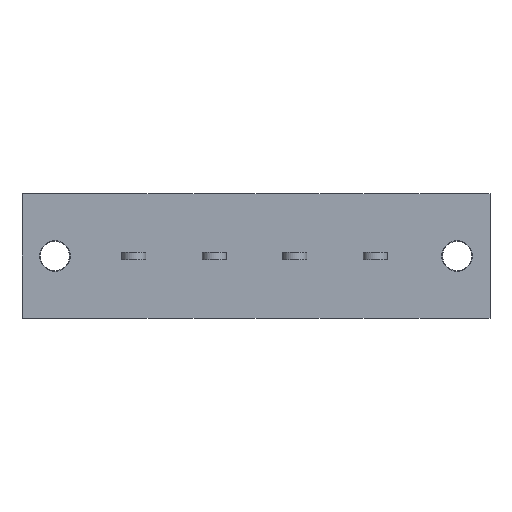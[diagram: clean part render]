
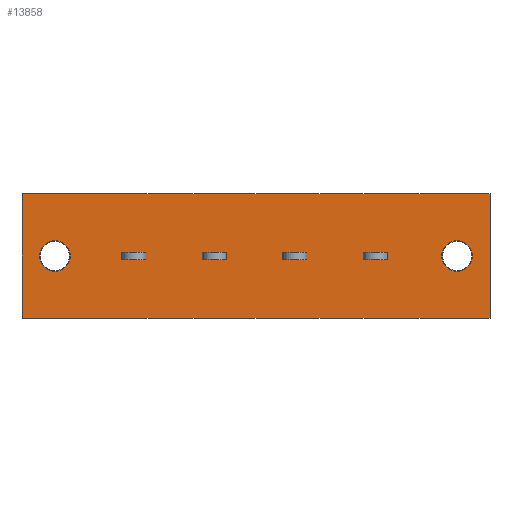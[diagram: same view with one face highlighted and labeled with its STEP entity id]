
A CAD part, front view. The second image highlights one B-rep face of the part: STEP entity #13858.
In plain terms, the highlighted planar face has unit normal (0, -1, 0).
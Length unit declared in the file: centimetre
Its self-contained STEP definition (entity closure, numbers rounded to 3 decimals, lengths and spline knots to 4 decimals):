
#931=VECTOR('',#15007,1.);
#1422=VECTOR('',#15806,1.);
#1591=VECTOR('',#16249,1.);
#1595=VECTOR('',#16254,1.);
#1610=VECTOR('',#16291,1.);
#1618=VECTOR('',#16303,1.);
#1736=VECTOR('',#16617,1.);
#1740=VECTOR('',#16622,1.);
#1755=VECTOR('',#16659,1.);
#1763=VECTOR('',#16671,1.);
#1881=VECTOR('',#16985,1.);
#1885=VECTOR('',#16990,1.);
#1900=VECTOR('',#17027,1.);
#1908=VECTOR('',#17039,1.);
#1975=VECTOR('',#17164,1.);
#1976=VECTOR('',#17165,1.);
#1977=VECTOR('',#17166,1.);
#1978=VECTOR('',#17167,1.);
#1979=VECTOR('',#17168,1.);
#1980=VECTOR('',#17169,1.);
#2448=LINE('',#18828,#931);
#2939=LINE('',#20667,#1422);
#3108=LINE('',#21222,#1591);
#3112=LINE('',#21231,#1595);
#3127=LINE('',#21275,#1610);
#3135=LINE('',#21291,#1618);
#3253=LINE('',#21692,#1736);
#3257=LINE('',#21701,#1740);
#3272=LINE('',#21745,#1755);
#3280=LINE('',#21761,#1763);
#3398=LINE('',#22162,#1881);
#3402=LINE('',#22171,#1885);
#3417=LINE('',#22215,#1900);
#3425=LINE('',#22231,#1908);
#3492=LINE('',#22393,#1975);
#3493=LINE('',#22396,#1976);
#3494=LINE('',#22398,#1977);
#3495=LINE('',#22400,#1978);
#3496=LINE('',#22401,#1979);
#3497=LINE('',#22402,#1980);
#3985=VERTEX_POINT('',#18829);
#3986=VERTEX_POINT('',#18830);
#3997=VERTEX_POINT('',#18854);
#4432=VERTEX_POINT('',#20668);
#4433=VERTEX_POINT('',#20669);
#4444=VERTEX_POINT('',#20693);
#4615=VERTEX_POINT('',#21223);
#4616=VERTEX_POINT('',#21224);
#4619=VERTEX_POINT('',#21232);
#4635=VERTEX_POINT('',#21276);
#4761=VERTEX_POINT('',#21693);
#4762=VERTEX_POINT('',#21694);
#4765=VERTEX_POINT('',#21702);
#4781=VERTEX_POINT('',#21746);
#4907=VERTEX_POINT('',#22163);
#4908=VERTEX_POINT('',#22164);
#4911=VERTEX_POINT('',#22172);
#4927=VERTEX_POINT('',#22216);
#4988=VERTEX_POINT('',#22394);
#4989=VERTEX_POINT('',#22395);
#4990=VERTEX_POINT('',#22397);
#4991=VERTEX_POINT('',#22399);
#5019=CIRCLE('',#22665,0.21);
#5062=CIRCLE('',#22902,0.21);
#5790=EDGE_CURVE('',#3985,#3986,#2448,.T.);
#5802=EDGE_CURVE('',#3997,#3997,#5019,.T.);
#6445=EDGE_CURVE('',#4432,#4433,#2939,.T.);
#6457=EDGE_CURVE('',#4444,#4444,#5062,.T.);
#6706=EDGE_CURVE('',#4615,#4616,#3108,.T.);
#6710=EDGE_CURVE('',#4619,#4615,#3112,.T.);
#6732=EDGE_CURVE('',#4635,#4619,#3127,.T.);
#6741=EDGE_CURVE('',#4616,#4635,#3135,.T.);
#6924=EDGE_CURVE('',#4761,#4762,#3253,.T.);
#6928=EDGE_CURVE('',#4765,#4761,#3257,.T.);
#6950=EDGE_CURVE('',#4781,#4765,#3272,.T.);
#6959=EDGE_CURVE('',#4762,#4781,#3280,.T.);
#7142=EDGE_CURVE('',#4907,#4908,#3398,.T.);
#7146=EDGE_CURVE('',#4911,#4907,#3402,.T.);
#7168=EDGE_CURVE('',#4927,#4911,#3417,.T.);
#7177=EDGE_CURVE('',#4908,#4927,#3425,.T.);
#7260=EDGE_CURVE('',#4988,#4989,#3492,.T.);
#7261=EDGE_CURVE('',#4990,#4988,#3493,.T.);
#7262=EDGE_CURVE('',#4991,#4990,#3494,.T.);
#7263=EDGE_CURVE('',#4989,#4991,#3495,.T.);
#7264=EDGE_CURVE('',#4433,#3985,#3496,.T.);
#7265=EDGE_CURVE('',#3986,#4432,#3497,.T.);
#11209=ORIENTED_EDGE('',*,*,#5802,.T.);
#11210=ORIENTED_EDGE('',*,*,#6457,.T.);
#11211=ORIENTED_EDGE('',*,*,#7260,.F.);
#11212=ORIENTED_EDGE('',*,*,#7261,.F.);
#11213=ORIENTED_EDGE('',*,*,#7262,.F.);
#11214=ORIENTED_EDGE('',*,*,#7263,.F.);
#11215=ORIENTED_EDGE('',*,*,#6710,.T.);
#11216=ORIENTED_EDGE('',*,*,#6706,.T.);
#11217=ORIENTED_EDGE('',*,*,#6741,.T.);
#11218=ORIENTED_EDGE('',*,*,#6732,.T.);
#11219=ORIENTED_EDGE('',*,*,#6928,.T.);
#11220=ORIENTED_EDGE('',*,*,#6924,.T.);
#11221=ORIENTED_EDGE('',*,*,#6959,.T.);
#11222=ORIENTED_EDGE('',*,*,#6950,.T.);
#11223=ORIENTED_EDGE('',*,*,#7146,.T.);
#11224=ORIENTED_EDGE('',*,*,#7142,.T.);
#11225=ORIENTED_EDGE('',*,*,#7177,.T.);
#11226=ORIENTED_EDGE('',*,*,#7168,.T.);
#11227=ORIENTED_EDGE('',*,*,#7264,.T.);
#11228=ORIENTED_EDGE('',*,*,#5790,.T.);
#11229=ORIENTED_EDGE('',*,*,#7265,.T.);
#11230=ORIENTED_EDGE('',*,*,#6445,.T.);
#12243=EDGE_LOOP('',(#11209));
#12244=EDGE_LOOP('',(#11210));
#12245=EDGE_LOOP('',(#11211,#11212,#11213,#11214));
#12246=EDGE_LOOP('',(#11215,#11216,#11217,#11218));
#12247=EDGE_LOOP('',(#11219,#11220,#11221,#11222));
#12248=EDGE_LOOP('',(#11223,#11224,#11225,#11226));
#12249=EDGE_LOOP('',(#11227,#11228,#11229,#11230));
#13091=FACE_BOUND('',#12243,.T.);
#13092=FACE_BOUND('',#12244,.T.);
#13093=FACE_BOUND('',#12245,.T.);
#13094=FACE_BOUND('',#12246,.T.);
#13095=FACE_BOUND('',#12247,.T.);
#13096=FACE_BOUND('',#12248,.T.);
#13097=FACE_BOUND('',#12249,.T.);
#13858=ADVANCED_FACE('',(#13091,#13092,#13093,#13094,#13095,#13096,#13097),
#14387,.T.);
#14387=PLANE('',#23393);
#15007=DIRECTION('',(0.,0.,1.));
#15025=DIRECTION('',(0.,1.,0.));
#15026=DIRECTION('',(0.21,0.,0.));
#15806=DIRECTION('',(0.,0.,-1.));
#15824=DIRECTION('',(0.,1.,0.));
#15825=DIRECTION('',(-0.21,0.,0.));
#16249=DIRECTION('',(0.,0.,1.));
#16254=DIRECTION('',(-1.,0.,0.));
#16291=DIRECTION('',(0.,0.,-1.));
#16303=DIRECTION('',(1.,0.,0.));
#16617=DIRECTION('',(0.,0.,1.));
#16622=DIRECTION('',(-1.,0.,0.));
#16659=DIRECTION('',(0.,0.,-1.));
#16671=DIRECTION('',(1.,0.,0.));
#16985=DIRECTION('',(0.,0.,1.));
#16990=DIRECTION('',(-1.,0.,0.));
#17027=DIRECTION('',(0.,0.,-1.));
#17039=DIRECTION('',(1.,0.,0.));
#17163=DIRECTION('',(0.,-1.,0.));
#17164=DIRECTION('',(1.,0.,0.));
#17165=DIRECTION('',(0.,0.,-1.));
#17166=DIRECTION('',(-1.,0.,0.));
#17167=DIRECTION('',(0.,0.,1.));
#17168=DIRECTION('',(1.,0.,0.));
#17169=DIRECTION('',(-1.,0.,0.));
#18828=CARTESIAN_POINT('',(4.4,0.,0.85));
#18829=CARTESIAN_POINT('',(4.4,0.,-0.85));
#18830=CARTESIAN_POINT('',(4.4,0.,0.85));
#18853=CARTESIAN_POINT('',(3.95,0.,0.));
#18854=CARTESIAN_POINT('',(3.74,0.,0.));
#20667=CARTESIAN_POINT('',(-2.,0.,-0.85));
#20668=CARTESIAN_POINT('',(-2.,0.,0.85));
#20669=CARTESIAN_POINT('',(-2.,0.,-0.85));
#20692=CARTESIAN_POINT('',(-1.55,0.,0.));
#20693=CARTESIAN_POINT('',(-1.34,0.,0.));
#21222=CARTESIAN_POINT('',(2.665,0.,0.));
#21223=CARTESIAN_POINT('',(2.665,0.,-0.05));
#21224=CARTESIAN_POINT('',(2.665,0.,0.05));
#21231=CARTESIAN_POINT('',(1.415,0.,-0.05));
#21232=CARTESIAN_POINT('',(2.995,0.,-0.05));
#21275=CARTESIAN_POINT('',(2.995,0.,0.));
#21276=CARTESIAN_POINT('',(2.995,0.,0.05));
#21291=CARTESIAN_POINT('',(1.415,0.,0.05));
#21692=CARTESIAN_POINT('',(1.565,0.,0.));
#21693=CARTESIAN_POINT('',(1.565,0.,-0.05));
#21694=CARTESIAN_POINT('',(1.565,0.,0.05));
#21701=CARTESIAN_POINT('',(0.865,0.,-0.05));
#21702=CARTESIAN_POINT('',(1.895,0.,-0.05));
#21745=CARTESIAN_POINT('',(1.895,0.,0.));
#21746=CARTESIAN_POINT('',(1.895,0.,0.05));
#21761=CARTESIAN_POINT('',(0.865,0.,0.05));
#22162=CARTESIAN_POINT('',(0.465,0.,0.));
#22163=CARTESIAN_POINT('',(0.465,0.,-0.05));
#22164=CARTESIAN_POINT('',(0.465,0.,0.05));
#22171=CARTESIAN_POINT('',(0.315,0.,-0.05));
#22172=CARTESIAN_POINT('',(0.795,0.,-0.05));
#22215=CARTESIAN_POINT('',(0.795,0.,0.));
#22216=CARTESIAN_POINT('',(0.795,0.,0.05));
#22231=CARTESIAN_POINT('',(0.315,0.,0.05));
#22392=CARTESIAN_POINT('',(0.,0.,0.));
#22393=CARTESIAN_POINT('',(-0.685,0.,-0.05));
#22394=CARTESIAN_POINT('',(-0.635,0.,-0.05));
#22395=CARTESIAN_POINT('',(-0.305,0.,-0.05));
#22396=CARTESIAN_POINT('',(-0.635,0.,0.));
#22397=CARTESIAN_POINT('',(-0.635,0.,0.05));
#22398=CARTESIAN_POINT('',(-0.685,0.,0.05));
#22399=CARTESIAN_POINT('',(-0.305,0.,0.05));
#22400=CARTESIAN_POINT('',(-0.305,0.,0.));
#22401=CARTESIAN_POINT('',(0.,0.,-0.85));
#22402=CARTESIAN_POINT('',(-1.1,0.,0.85));
#22665=AXIS2_PLACEMENT_3D('',#18853,#15025,#15026);
#22902=AXIS2_PLACEMENT_3D('',#20692,#15824,#15825);
#23393=AXIS2_PLACEMENT_3D('',#22392,#17163,$);
